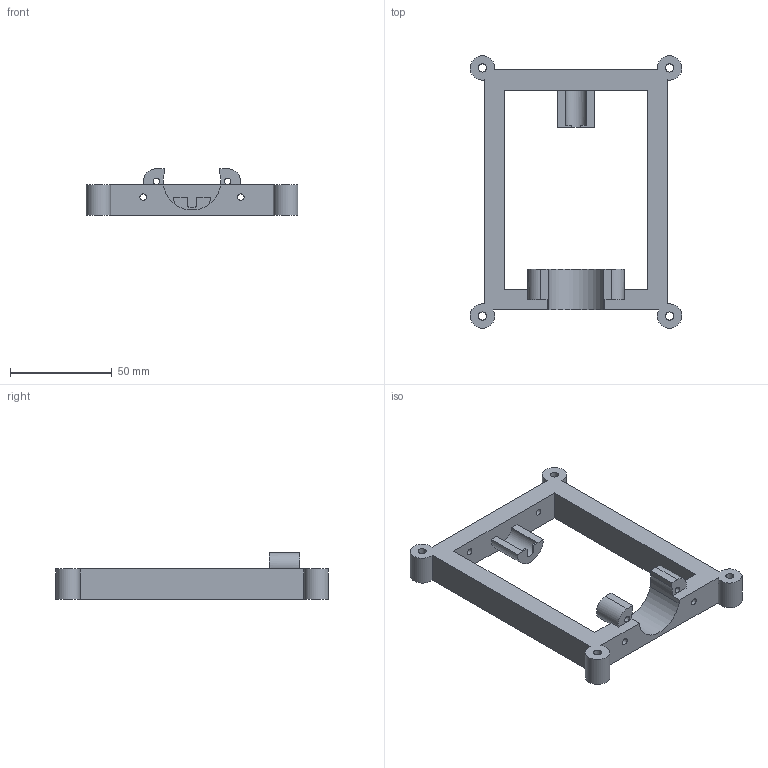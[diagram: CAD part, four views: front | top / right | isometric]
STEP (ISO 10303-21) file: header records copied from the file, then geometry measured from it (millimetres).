
FILE_DESCRIPTION(/* description */ ('STEP AP242 Edition 2','CAx-IF Rec.Pracs.---Representation and Presentation of Product Manufacturing Information (PMI)---4.0---2014-10-13','CAx-IF Rec.Pracs.---3D Tessellated Geometry---0.4---2014-09-14','2;1','CAx-IF Rec.Pracs.---User Defined Attributes---1.5---2016-08-15'),/* implementation_level */ '2;1');
FILE_NAME(/* name */ 'Assembly 1 - shell_lower_v5',/* time_stamp */ '2026-02-04T12:55:11Z',/* author */ (''),/* organization */ (''),/* preprocessor_version */ 'ST-DEVELOPER v20',/* originating_system */ 'ONSHAPE BY PTC INC, 1.210',/* authorisation */ ' ');
FILE_SCHEMA (('AP242_MANAGED_MODEL_BASED_3D_ENGINEERING_MIM_LF { 1 0 10303 442 3 1 4 }'));
Length unit declared in the file: metre
Products named in the file (1): shell_lower_v5
Bounding box: 104 x 134 x 23.05 mm (x, y, z)
Volume: 63860.9 mm3; surface area: 24735.5 mm2
Topology: 1 solids, 1 shells, 49 faces, 142 edges, 94 vertices
Faces by surface type: plane 27, cylinder 22
Full cylindrical faces by diameter (mm): 3.2 x2, 3.25 x4, 4 x4
Entity records: 1648 total; most frequent: DIRECTION 284, CARTESIAN_POINT 276, ORIENTED_EDGE 264, EDGE_CURVE 132, AXIS2_PLACEMENT_3D 102, VERTEX_POINT 94, LINE 80, VECTOR 80
